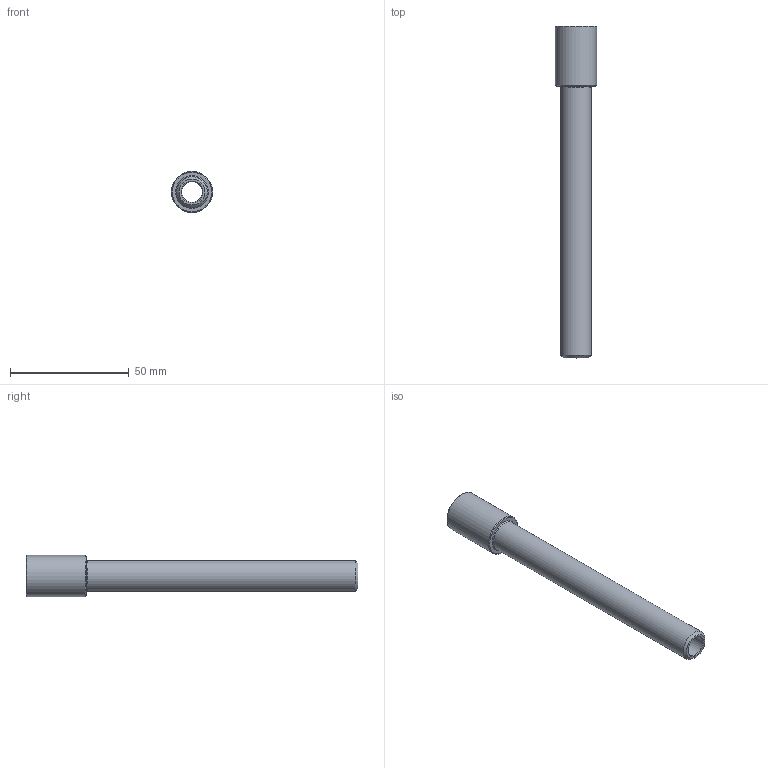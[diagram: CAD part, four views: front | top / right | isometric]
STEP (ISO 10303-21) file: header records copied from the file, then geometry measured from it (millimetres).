
FILE_DESCRIPTION(/* description */ (''),/* implementation_level */ '2;1');
FILE_NAME(/* name */ 'C:/Users/drich/Desktop/EP14X5-1_2 v1.step',/* time_stamp */ '2019-11-18T15:01:44-06:00',/* author */ (''),/* organization */ (''),/* preprocessor_version */ 'ST-DEVELOPER v18',/* originating_system */ 'Autodesk Translation Framework v8.12.0.6',/* authorisation */ '');
FILE_SCHEMA (('AUTOMOTIVE_DESIGN { 1 0 10303 214 3 1 1 }'));
Length unit declared in the file: inch
Products named in the file (2): EP14X5-1_2; EP14X4
Assembly tree (1 placements, depth 2):
  EP14X5-1_2
    EP14X4
Bounding box: 17.45 x 139.7 x 17.45 mm (x, y, z)
Volume: 12085.6 mm3; surface area: 10386.1 mm2
Topology: 1 solids, 1 shells, 23 faces, 55 edges, 37 vertices
Faces by surface type: plane 11, cone 7, cylinder 5
Full cylindrical faces by diameter (mm): 8.712 x1, 11.43 x1, 11.668 x1, 13.032 x1, 17.45 x1
Entity records: 740 total; most frequent: CARTESIAN_POINT 132, DIRECTION 124, ORIENTED_EDGE 110, EDGE_CURVE 55, AXIS2_PLACEMENT_3D 50, VERTEX_POINT 37, EDGE_LOOP 28, LINE 24
